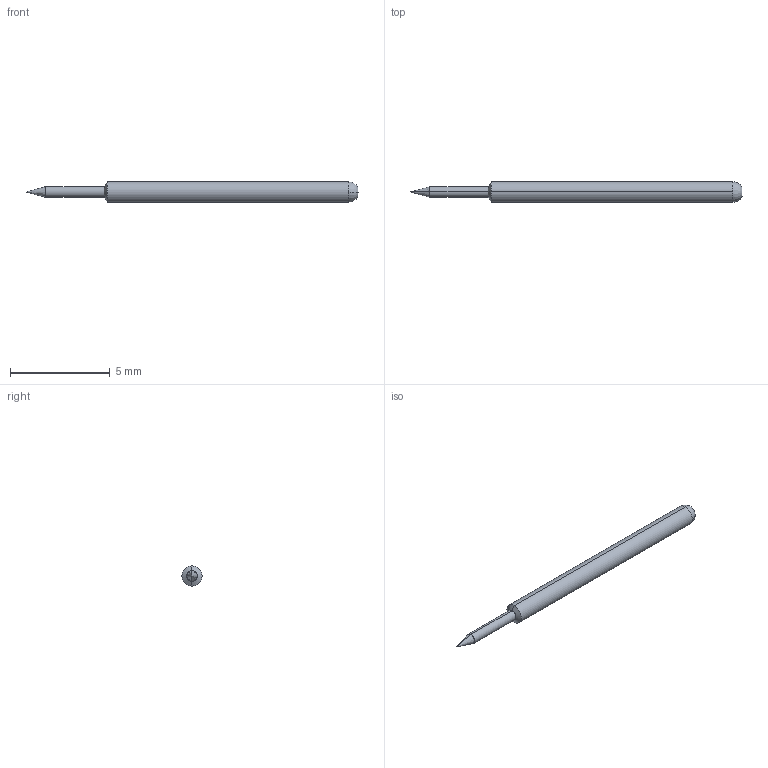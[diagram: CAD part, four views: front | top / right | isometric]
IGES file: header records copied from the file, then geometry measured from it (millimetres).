
Start section: SolidWorks IGES file using analytic representation for surfaces
Global section: file name: Z:\probe solid model mockups\Solidworks models\IGES Files\HPA-1\HPA-1B.IGS; native system: SolidWorks 2006 by SolidWorks Corporation; preprocessor: SolidWorks 2006 by SolidWorks Corporation; author: tsakatani; date: 071220.111704; units: inch
Bounding box: 16.64 x 1.02 x 1.02 mm (x, y, z)
Surface area: 46.7 mm2 (no closed solid volume)
Topology: 0 solids, 0 shells, 11 faces, 60 edges, 58 vertices
Faces by surface type: revolution 10, bspline 1
